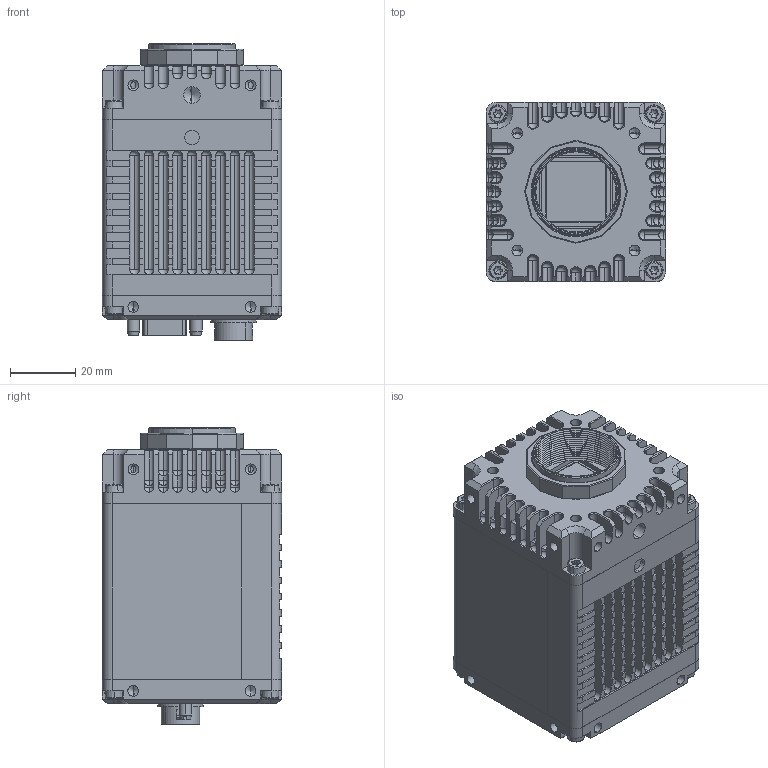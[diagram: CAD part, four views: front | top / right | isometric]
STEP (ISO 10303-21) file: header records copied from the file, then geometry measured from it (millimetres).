
FILE_DESCRIPTION (( 'STEP AP214' ), '1' );
FILE_NAME ('4168050_Goldeye CL-030 SWIR TEC1.STEP', '2021-12-06T15:38:49', ( '' ), ( '' ), 'SwSTEP 2.0', 'SolidWorks 2020', '' );
FILE_SCHEMA (( 'AUTOMOTIVE_DESIGN' ));
Length unit declared in the file: millimetre
Products named in the file (1): 4168050_Goldeye CL-030 SWIR TEC1
Bounding box: 55.01 x 55.05 x 91.12 mm (x, y, z)
Surface area: 71163.4 mm2 (no closed solid volume)
Topology: 0 solids, 40 shells, 2785 faces, 7316 edges, 4556 vertices
Faces by surface type: plane 1269, cylinder 752, cone 337, bspline 297, sphere 98, torus 32
Entity records: 123027 total; most frequent: CARTESIAN_POINT 25659, ORIENTED_EDGE 13952, DIRECTION 13095, EDGE_CURVE 7126, LINE 4579, VECTOR 4579, VERTEX_POINT 4542, AXIS2_PLACEMENT_3D 4258
